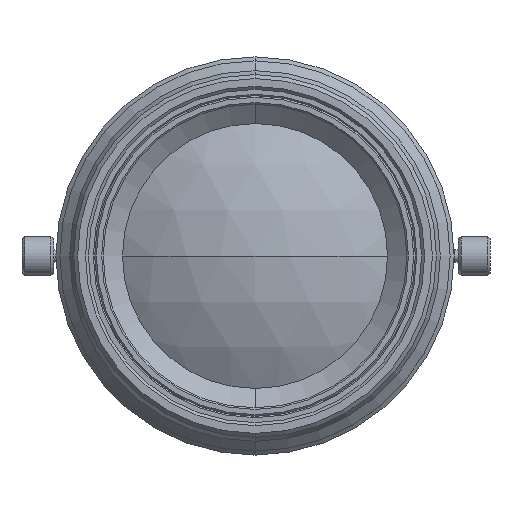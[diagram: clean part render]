
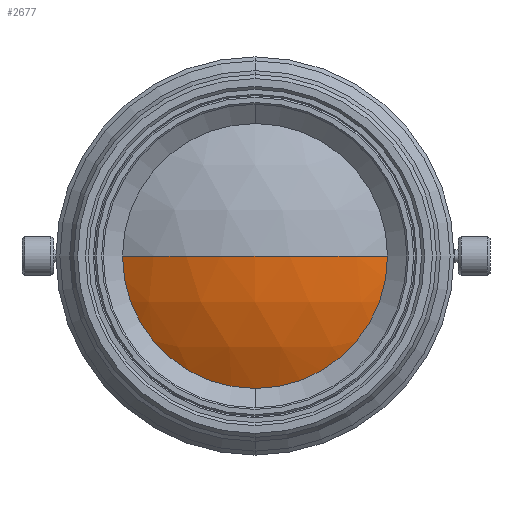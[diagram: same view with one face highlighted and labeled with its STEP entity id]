
A CAD part, left-side view. The second image highlights one B-rep face of the part: STEP entity #2677.
In plain terms, the highlighted spherical face has radius 33.4 mm.
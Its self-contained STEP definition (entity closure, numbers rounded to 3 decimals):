
#266 = EDGE_LOOP ( 'NONE', ( #3188, #1786, #3799, #1644 ) ) ;
#295 = EDGE_CURVE ( 'NONE', #4339, #2657, #439, .T. ) ;
#381 = DIRECTION ( 'NONE',  ( 0., 0., 1. ) ) ;
#439 = CIRCLE ( 'NONE', #4448, 16.8 ) ;
#608 = AXIS2_PLACEMENT_3D ( 'NONE', #1065, #3522, #2104 ) ;
#769 = VERTEX_POINT ( 'NONE', #2347 ) ;
#1065 = CARTESIAN_POINT ( 'NONE',  ( 35.638, 0., 0. ) ) ;
#1215 = CARTESIAN_POINT ( 'NONE',  ( 35.638, 0., 0. ) ) ;
#1412 = CARTESIAN_POINT ( 'NONE',  ( 6.771, -16.8, 0. ) ) ;
#1455 = SPHERICAL_SURFACE ( 'NONE', #608, 33.4 ) ;
#1606 = DIRECTION ( 'NONE',  ( 0., 0., 1. ) ) ;
#1644 = ORIENTED_EDGE ( 'NONE', *, *, #1745, .T. ) ;
#1745 = EDGE_CURVE ( 'NONE', #769, #4339, #2606, .T. ) ;
#1786 = ORIENTED_EDGE ( 'NONE', *, *, #3566, .T. ) ;
#1934 = CARTESIAN_POINT ( 'NONE',  ( 6.771, 0., 0. ) ) ;
#2017 = DIRECTION ( 'NONE',  ( -1., 0., 0. ) ) ;
#2104 = DIRECTION ( 'NONE',  ( 0., 1., 0. ) ) ;
#2178 = CIRCLE ( 'NONE', #3592, 33.4 ) ;
#2306 = DIRECTION ( 'NONE',  ( -1., 0., 0. ) ) ;
#2330 = CARTESIAN_POINT ( 'NONE',  ( 6.771, 0., 0. ) ) ;
#2347 = CARTESIAN_POINT ( 'NONE',  ( 6.771, 16.8, 0. ) ) ;
#2414 = FACE_OUTER_BOUND ( 'NONE', #266, .T. ) ;
#2503 = CARTESIAN_POINT ( 'NONE',  ( 35.638, 0., 0. ) ) ;
#2528 = VERTEX_POINT ( 'NONE', #3450 ) ;
#2606 = CIRCLE ( 'NONE', #2747, 16.8 ) ;
#2657 = VERTEX_POINT ( 'NONE', #1412 ) ;
#2677 = ADVANCED_FACE ( 'NONE', ( #2414 ), #1455, .T. ) ;
#2700 = EDGE_CURVE ( 'NONE', #769, #2528, #2178, .T. ) ;
#2747 = AXIS2_PLACEMENT_3D ( 'NONE', #1934, #2306, #3721 ) ;
#2883 = DIRECTION ( 'NONE',  ( 1., 0., 0. ) ) ;
#2996 = DIRECTION ( 'NONE',  ( 0., 1., 0. ) ) ;
#3188 = ORIENTED_EDGE ( 'NONE', *, *, #295, .T. ) ;
#3450 = CARTESIAN_POINT ( 'NONE',  ( 2.238, 0., 0. ) ) ;
#3522 = DIRECTION ( 'NONE',  ( 0., 0., -1. ) ) ;
#3566 = EDGE_CURVE ( 'NONE', #2657, #2528, #4205, .T. ) ;
#3592 = AXIS2_PLACEMENT_3D ( 'NONE', #2503, #381, #2883 ) ;
#3674 = DIRECTION ( 'NONE',  ( 0., 0., -1. ) ) ;
#3721 = DIRECTION ( 'NONE',  ( 0., 0., 1. ) ) ;
#3799 = ORIENTED_EDGE ( 'NONE', *, *, #2700, .F. ) ;
#4096 = AXIS2_PLACEMENT_3D ( 'NONE', #1215, #3674, #2996 ) ;
#4205 = CIRCLE ( 'NONE', #4096, 33.4 ) ;
#4248 = CARTESIAN_POINT ( 'NONE',  ( 6.771, 0., -16.8 ) ) ;
#4339 = VERTEX_POINT ( 'NONE', #4248 ) ;
#4448 = AXIS2_PLACEMENT_3D ( 'NONE', #2330, #2017, #1606 ) ;
